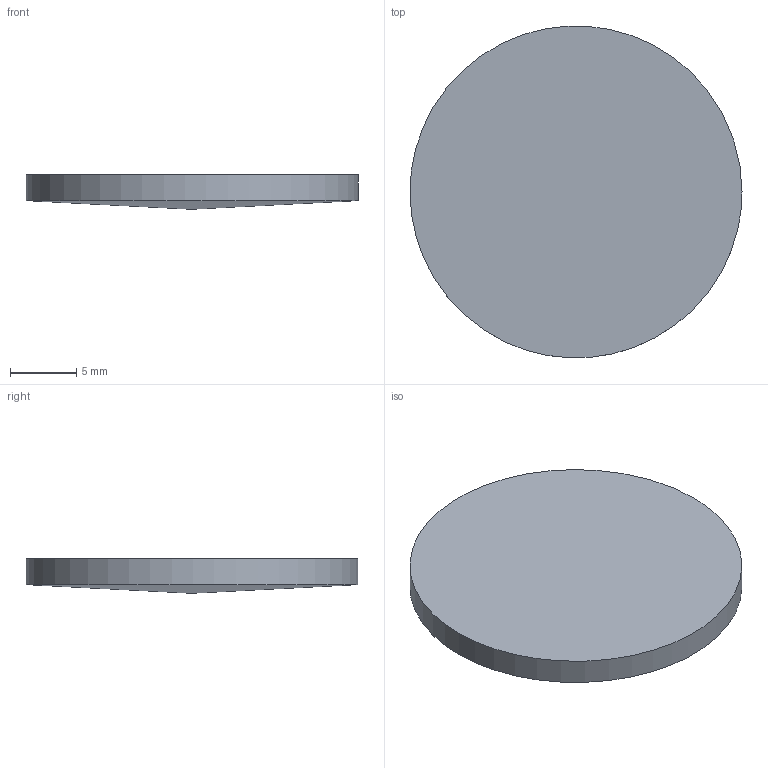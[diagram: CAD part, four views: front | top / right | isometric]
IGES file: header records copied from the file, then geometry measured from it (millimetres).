
Global section: file name: C:\Users\y.nozaki\Desktop\ME CADX\SLSI-25-P\SLSI-25-50P.IGS; native system: HarmonyWare Translators; preprocessor: HarmonyWare IGES v1.7.9; date: 20161031.102327; units: millimetre
Bounding box: 25 x 24.97 x 2.6 mm (x, y, z)
Volume: 1125.3 mm3; surface area: 1136.8 mm2
Topology: 1 solids, 1 shells, 3 faces, 3 edges, 2 vertices
Faces by surface type: bspline 3
